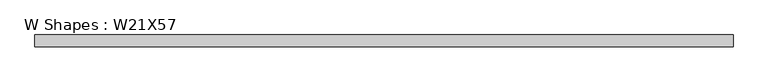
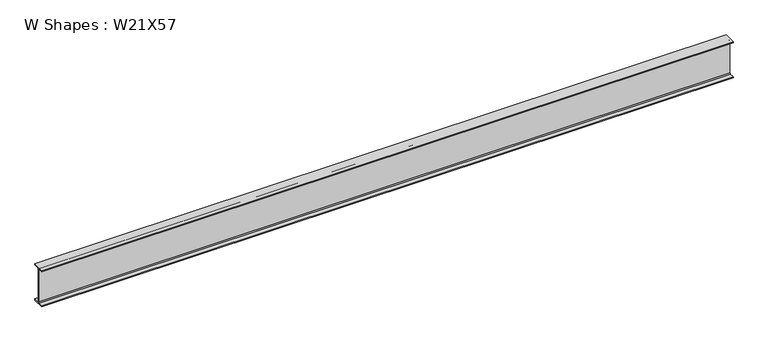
"""IFC4 building model written with IfcOpenShell, lengths in millimetres: beam geometry, W Shapes : W21X57."""

from ifc_helpers import new_model, si_unit, point, frame, frame_2d, origin, place, context, project, spatial, polyline, circle_curve, trimmed, segment, composite_curve, outline, extrude, source, transform, mapped, element, save


def w_shapes_w21x57_55c37454(model_context):
    return source(origin(), model_context, "Body", "SweptSolid", [
        extrude(outline(composite_curve([segment(polyline([(83.312, -251.46), (83.312, -267.97), (-83.312, -267.97), (-83.312, -251.46), (-17.8435, -251.46)]), True, "CONTINUOUS"), segment(trimmed(circle_curve(frame_2d((-17.8435, -238.76)), 12.7), [point((-17.8435, -251.46))], [point((-5.1435, -238.76))], True, "CARTESIAN"), True, "CONTINUOUS"), segment(polyline([(-5.1435, -238.76), (-5.1435, 238.76)]), True, "CONTINUOUS"), segment(trimmed(circle_curve(frame_2d((-17.8435, 238.76)), 12.7), [point((-5.1435, 238.76))], [point((-17.8435, 251.46))], True, "CARTESIAN"), True, "CONTINUOUS"), segment(polyline([(-17.8435, 251.46), (-83.312, 251.46), (-83.312, 267.97), (83.312, 267.97), (83.312, 251.46), (17.8435, 251.46)]), True, "CONTINUOUS"), segment(trimmed(circle_curve(frame_2d((17.8435, 238.76)), 12.7), [point((17.8435, 251.46))], [point((5.1435, 238.76))], True, "CARTESIAN"), True, "CONTINUOUS"), segment(polyline([(5.1435, 238.76), (5.1435, -238.76)]), True, "CONTINUOUS"), segment(trimmed(circle_curve(frame_2d((17.8435, -238.76)), 12.7), [point((5.1435, -238.76))], [point((17.8435, -251.46))], True, "CARTESIAN"), True, "CONTINUOUS"), segment(polyline([(17.8435, -251.46), (83.312, -251.46)]), True, "CONTINUOUS")], self_intersect=False)), frame((-4845.05, 0.0, 0.0), z_axis=(1.0, 0.0, 0.0), x_axis=(0.0, 1.0, 0.0)), (0.0, 0.0, 1.0), 9690.1),
    ])


if __name__ == "__main__":
    model = new_model("IFC4")
    model_context = context("Model", 3, world=origin())
    ifc_project = project(units=[si_unit("LENGTHUNIT", "METRE", prefix="MILLI")], contexts=[model_context])
    site = spatial("IfcSite", under=ifc_project)
    building = spatial("IfcBuilding", under=site)
    placement = place(None, origin())
    w_shapes_w21x57_shape = w_shapes_w21x57_55c37454(model_context)
    element("IfcBeam", 1, ObjectType="W Shapes : W21X57", at=placement, inside=building, context=model_context, shape_type="MappedRepresentation", body=[
        mapped(w_shapes_w21x57_shape, transform((0.0, 0.0, 0.0), x_axis=(1.0, 0.0, 0.0), y_axis=(0.0, 1.0, 0.0), z_axis=(0.0, 0.0, 1.0))),
    ])
    save(model, "model.ifc")
